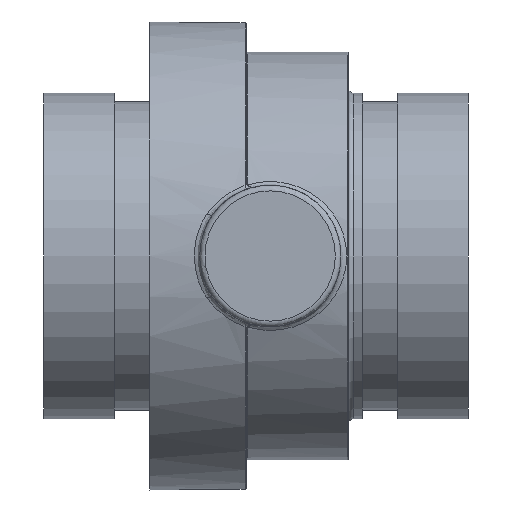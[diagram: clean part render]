
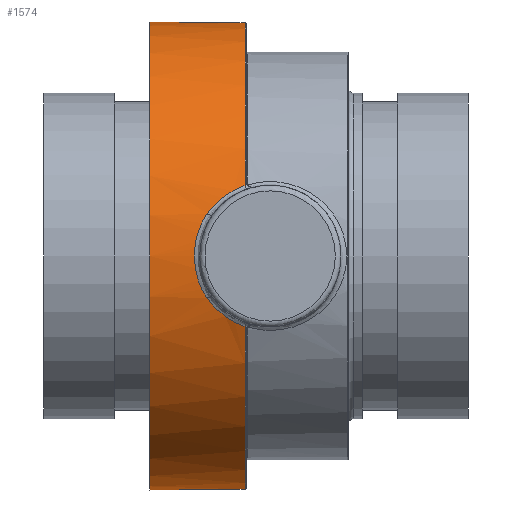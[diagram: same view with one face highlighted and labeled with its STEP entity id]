
A CAD part, front view. The second image highlights one B-rep face of the part: STEP entity #1574.
In plain terms, the highlighted cylindrical face has radius 52.451 mm (diameter 104.902 mm), a full revolution.
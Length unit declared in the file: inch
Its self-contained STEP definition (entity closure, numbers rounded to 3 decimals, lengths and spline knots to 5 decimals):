
#84=B_SPLINE_CURVE_WITH_KNOTS('',3,(#2880,#2881,#2882,#2883),
 .UNSPECIFIED.,.F.,.F.,(4,4),(-1.09555,0.),
 .UNSPECIFIED.);
#86=B_SPLINE_CURVE_WITH_KNOTS('',3,(#2922,#2923,#2924,#2925,#2926),
 .UNSPECIFIED.,.F.,.F.,(4,1,4),(-2.07006,-1.47861,-1.03498),
 .UNSPECIFIED.);
#87=B_SPLINE_CURVE_WITH_KNOTS('',3,(#2927,#2928,#2929,#2930,#2931),
 .UNSPECIFIED.,.F.,.F.,(4,1,4),(-1.03498,-0.88717,0.),
 .UNSPECIFIED.);
#91=B_SPLINE_CURVE_WITH_KNOTS('',3,(#2970,#2971,#2972,#2973),
 .UNSPECIFIED.,.F.,.F.,(4,4),(-4.27073,-3.17517),
 .UNSPECIFIED.);
#96=B_SPLINE_CURVE_WITH_KNOTS('',3,(#3088,#3089,#3090,#3091,#3092),
 .UNSPECIFIED.,.F.,.F.,(4,1,4),(0.,0.1394,0.24394),
 .UNSPECIFIED.);
#97=B_SPLINE_CURVE_WITH_KNOTS('',3,(#3096,#3097,#3098,#3099,#3100),
 .UNSPECIFIED.,.F.,.F.,(4,1,4),(0.,0.10455,0.24395),
 .UNSPECIFIED.);
#205=FACE_OUTER_BOUND('',#301,.T.);
#301=EDGE_LOOP('',(#1202,#1203,#1204,#1205,#1206,#1207,#1208,#1209,#1210,
#1211,#1212,#1213,#1214,#1215,#1216));
#404=LINE('',#3086,#468);
#405=LINE('',#3102,#469);
#406=LINE('',#3105,#470);
#468=VECTOR('',#2108,0.3937);
#469=VECTOR('',#2111,0.3937);
#470=VECTOR('',#2114,2.065);
#542=CIRCLE('',#1738,2.065);
#543=CIRCLE('',#1739,2.065);
#544=CIRCLE('',#1740,2.065);
#545=CIRCLE('',#1741,2.065);
#546=CIRCLE('',#1742,2.065);
#671=VERTEX_POINT('',#2845);
#673=VERTEX_POINT('',#2878);
#675=VERTEX_POINT('',#2919);
#676=VERTEX_POINT('',#2921);
#679=VERTEX_POINT('',#2968);
#697=VERTEX_POINT('',#3083);
#698=VERTEX_POINT('',#3085);
#699=VERTEX_POINT('',#3087);
#700=VERTEX_POINT('',#3093);
#701=VERTEX_POINT('',#3095);
#702=VERTEX_POINT('',#3101);
#703=VERTEX_POINT('',#3104);
#704=VERTEX_POINT('',#3106);
#847=EDGE_CURVE('',#673,#671,#84,.T.);
#850=EDGE_CURVE('',#675,#676,#86,.T.);
#851=EDGE_CURVE('',#676,#673,#87,.T.);
#856=EDGE_CURVE('',#679,#675,#91,.T.);
#885=EDGE_CURVE('',#697,#679,#542,.T.);
#886=EDGE_CURVE('',#698,#697,#404,.T.);
#887=EDGE_CURVE('',#699,#698,#96,.T.);
#888=EDGE_CURVE('',#700,#699,#543,.T.);
#889=EDGE_CURVE('',#701,#700,#97,.T.);
#890=EDGE_CURVE('',#702,#701,#405,.T.);
#891=EDGE_CURVE('',#671,#702,#544,.T.);
#892=EDGE_CURVE('',#676,#703,#406,.T.);
#893=EDGE_CURVE('',#703,#704,#545,.T.);
#894=EDGE_CURVE('',#704,#703,#546,.T.);
#1202=ORIENTED_EDGE('',*,*,#856,.F.);
#1203=ORIENTED_EDGE('',*,*,#885,.F.);
#1204=ORIENTED_EDGE('',*,*,#886,.F.);
#1205=ORIENTED_EDGE('',*,*,#887,.F.);
#1206=ORIENTED_EDGE('',*,*,#888,.F.);
#1207=ORIENTED_EDGE('',*,*,#889,.F.);
#1208=ORIENTED_EDGE('',*,*,#890,.F.);
#1209=ORIENTED_EDGE('',*,*,#891,.F.);
#1210=ORIENTED_EDGE('',*,*,#847,.F.);
#1211=ORIENTED_EDGE('',*,*,#851,.F.);
#1212=ORIENTED_EDGE('',*,*,#892,.T.);
#1213=ORIENTED_EDGE('',*,*,#893,.T.);
#1214=ORIENTED_EDGE('',*,*,#894,.T.);
#1215=ORIENTED_EDGE('',*,*,#892,.F.);
#1216=ORIENTED_EDGE('',*,*,#850,.F.);
#1417=CYLINDRICAL_SURFACE('',#1737,2.065);
#1574=ADVANCED_FACE('',(#205),#1417,.T.);
#1737=AXIS2_PLACEMENT_3D('',#3082,#2104,#2105);
#1738=AXIS2_PLACEMENT_3D('',#3084,#2106,#2107);
#1739=AXIS2_PLACEMENT_3D('',#3094,#2109,#2110);
#1740=AXIS2_PLACEMENT_3D('',#3103,#2112,#2113);
#1741=AXIS2_PLACEMENT_3D('',#3107,#2115,#2116);
#1742=AXIS2_PLACEMENT_3D('',#3108,#2117,#2118);
#2104=DIRECTION('center_axis',(1.,0.,0.));
#2105=DIRECTION('ref_axis',(0.,1.,0.));
#2106=DIRECTION('center_axis',(1.,0.,0.));
#2107=DIRECTION('ref_axis',(0.,-1.,0.));
#2108=DIRECTION('',(1.,0.,0.));
#2109=DIRECTION('center_axis',(1.,0.,0.));
#2110=DIRECTION('ref_axis',(0.,1.,0.));
#2111=DIRECTION('',(-1.,0.,0.));
#2112=DIRECTION('center_axis',(1.,0.,0.));
#2113=DIRECTION('ref_axis',(0.,-1.,0.));
#2114=DIRECTION('',(-1.,0.,0.));
#2115=DIRECTION('center_axis',(1.,0.,0.));
#2116=DIRECTION('ref_axis',(0.,0.,1.));
#2117=DIRECTION('center_axis',(1.,0.,0.));
#2118=DIRECTION('ref_axis',(0.,0.,1.));
#2845=CARTESIAN_POINT('',(-0.222,-1.96898,-0.62238));
#2878=CARTESIAN_POINT('',(-0.5557,-2.03083,-0.37412));
#2880=CARTESIAN_POINT('Ctrl Pts',(-0.5557,-2.03083,
-0.37412));
#2881=CARTESIAN_POINT('Ctrl Pts',(-0.475,-2.00978,
-0.48838));
#2882=CARTESIAN_POINT('Ctrl Pts',(-0.35705,-1.98349,
-0.57646));
#2883=CARTESIAN_POINT('Ctrl Pts',(-0.222,-1.96898,-0.62238));
#2919=CARTESIAN_POINT('',(-0.5557,-2.03083,0.37412));
#2921=CARTESIAN_POINT('',(-0.66867,-2.065,0.));
#2922=CARTESIAN_POINT('Ctrl Pts',(-0.5557,-2.03083,
0.37412));
#2923=CARTESIAN_POINT('Ctrl Pts',(-0.59926,-2.04219,
0.31244));
#2924=CARTESIAN_POINT('Ctrl Pts',(-0.65295,-2.05936,0.18938));
#2925=CARTESIAN_POINT('Ctrl Pts',(-0.66872,-2.06497,
0.05686));
#2926=CARTESIAN_POINT('Ctrl Pts',(-0.66867,-2.06499,0.));
#2927=CARTESIAN_POINT('Ctrl Pts',(-0.66867,-2.06499,0.));
#2928=CARTESIAN_POINT('Ctrl Pts',(-0.66865,-2.065,
-0.01894));
#2929=CARTESIAN_POINT('Ctrl Pts',(-0.66324,-2.06318,
-0.15163));
#2930=CARTESIAN_POINT('Ctrl Pts',(-0.62104,-2.04787,
-0.28159));
#2931=CARTESIAN_POINT('Ctrl Pts',(-0.5557,-2.03083,
-0.37412));
#2968=CARTESIAN_POINT('',(-0.222,-1.96898,0.62238));
#2970=CARTESIAN_POINT('Ctrl Pts',(-0.222,-1.96898,0.62238));
#2971=CARTESIAN_POINT('Ctrl Pts',(-0.35705,-1.98349,
0.57646));
#2972=CARTESIAN_POINT('Ctrl Pts',(-0.475,-2.00978,
0.48838));
#2973=CARTESIAN_POINT('Ctrl Pts',(-0.5557,-2.03083,
0.37412));
#3082=CARTESIAN_POINT('Origin',(-0.637,0.,0.));
#3083=CARTESIAN_POINT('',(-0.222,1.97977,0.58716));
#3084=CARTESIAN_POINT('Origin',(-0.222,0.,0.));
#3085=CARTESIAN_POINT('',(-0.5,1.97977,0.58716));
#3086=CARTESIAN_POINT('',(-0.637,1.97977,0.58716));
#3087=CARTESIAN_POINT('',(-0.56,1.9965,0.52745));
#3088=CARTESIAN_POINT('Ctrl Pts',(-0.56,1.9965,0.52745));
#3089=CARTESIAN_POINT('Ctrl Pts',(-0.56,1.99185,0.54505));
#3090=CARTESIAN_POINT('Ctrl Pts',(-0.54556,1.98324,0.57563));
#3091=CARTESIAN_POINT('Ctrl Pts',(-0.51372,1.97977,0.58716));
#3092=CARTESIAN_POINT('Ctrl Pts',(-0.5,1.97977,0.58716));
#3093=CARTESIAN_POINT('',(-0.56,1.9965,-0.52745));
#3094=CARTESIAN_POINT('Origin',(-0.56,0.,0.));
#3095=CARTESIAN_POINT('',(-0.5,1.97977,-0.58716));
#3096=CARTESIAN_POINT('Ctrl Pts',(-0.5,1.97977,-0.58716));
#3097=CARTESIAN_POINT('Ctrl Pts',(-0.51372,1.97977,-0.58716));
#3098=CARTESIAN_POINT('Ctrl Pts',(-0.54556,1.98324,-0.57564));
#3099=CARTESIAN_POINT('Ctrl Pts',(-0.56,1.99185,-0.54505));
#3100=CARTESIAN_POINT('Ctrl Pts',(-0.56,1.9965,-0.52745));
#3101=CARTESIAN_POINT('',(-0.222,1.97977,-0.58716));
#3102=CARTESIAN_POINT('',(-0.637,1.97977,-0.58716));
#3103=CARTESIAN_POINT('Origin',(-0.222,0.,0.));
#3104=CARTESIAN_POINT('',(-1.062,-2.065,0.));
#3105=CARTESIAN_POINT('',(-0.637,-2.065,0.));
#3106=CARTESIAN_POINT('',(-1.062,2.065,0.));
#3107=CARTESIAN_POINT('Origin',(-1.062,0.,0.));
#3108=CARTESIAN_POINT('Origin',(-1.062,0.,0.));
